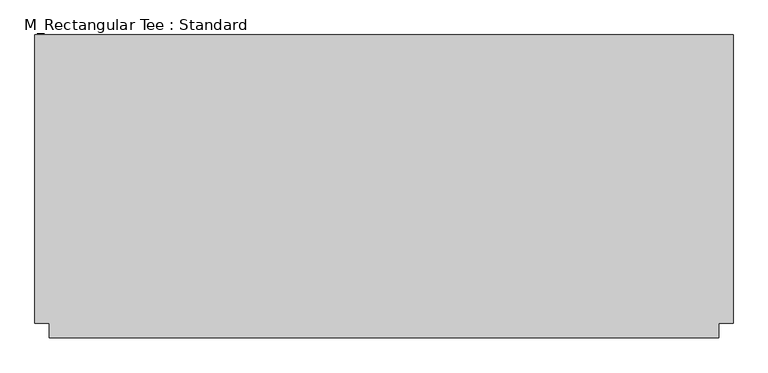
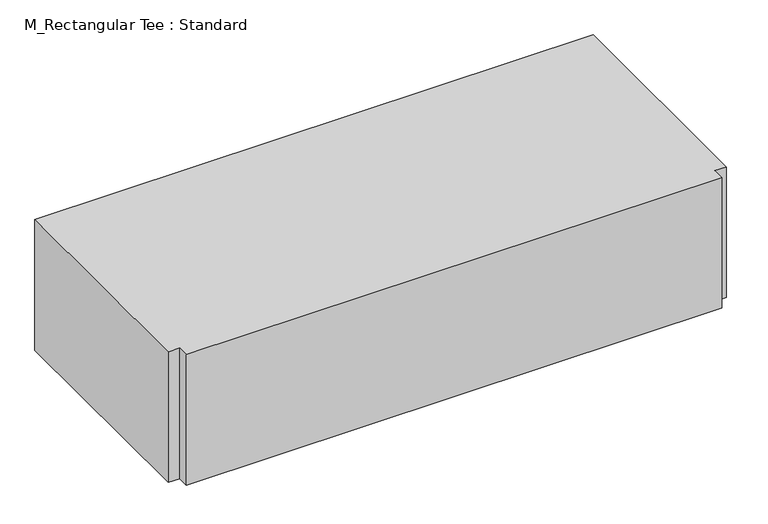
"""IFC4 building model written with IfcOpenShell, lengths in millimetres: duct fitting geometry, M_Rectangular Tee : Standard."""

import ifcopenshell
import ifcopenshell.guid

model = None  # the IFC model being written
_history = None  # IfcOwnerHistory: only IFC2X3 demands one
_inside = {}  # id of a spatial element -> (the spatial element, [elements in it])
_under = {}  # id of a project, library or spatial element -> (it, [spatial elements below it])
_declared = {}  # id of a project -> (the project, [libraries it declares])
_typed = {}  # id of a type object -> (the type object, [elements of that type])
_made_of = {}  # id of a material, layer set ... -> (it, [elements and type objects made of it])


def new_model(schema):
    """Start an empty IFC model of exactly this schema.

    Asked for "IFC4X3", IfcOpenShell would pick the latest addendum, in which some entities
    have other attributes; the version numbers below select the first issue.
    IFC2X3 requires an IfcOwnerHistory on every rooted entity: one is made here for all.
    """
    global model, _history
    if schema == "IFC4X3":
        model = ifcopenshell.file(schema_version=(4, 3, 0, 0))
    else:
        model = ifcopenshell.file(schema=schema)
    _inside.clear()
    _under.clear()
    _declared.clear()
    _typed.clear()
    _made_of.clear()
    _history = None
    if model.schema == "IFC2X3":
        org = make("IfcOrganization", Name="unknown")
        user = make(
            "IfcPersonAndOrganization",
            ThePerson=make("IfcPerson", FamilyName="unknown"),
            TheOrganization=org,
        )
        app = make(
            "IfcApplication",
            ApplicationDeveloper=org,
            Version="unknown",
            ApplicationFullName="unknown",
            ApplicationIdentifier="unknown",
        )
        _history = make(
            "IfcOwnerHistory",
            OwningUser=user,
            OwningApplication=app,
            ChangeAction="ADDED",
            CreationDate=0,
        )
    return model


def make(cls, **values):
    """One entity of the class cls with the attributes given. An attribute that is None is left unset."""
    return model.create_entity(
        cls, **{name: value for name, value in values.items() if value is not None}
    )


def rooted(cls, **values):
    """An entity with a GlobalId (a new one), such as an element, a storey or a relation."""
    return make(cls, GlobalId=ifcopenshell.guid.new(), OwnerHistory=_history, **values)


def si_unit(unit_type, name, prefix=None):
    """IfcSIUnit, for example si_unit("LENGTHUNIT", "METRE", prefix="MILLI")."""
    return make("IfcSIUnit", UnitType=unit_type, Prefix=prefix, Name=name)


def assignment(units):
    """IfcUnitAssignment: the units of a project."""
    return None if units is None else make("IfcUnitAssignment", Units=units)


def point(xyz):
    """IfcCartesianPoint."""
    return None if xyz is None else make("IfcCartesianPoint", Coordinates=xyz)


def direction(xyz):
    """IfcDirection."""
    return None if xyz is None else make("IfcDirection", DirectionRatios=xyz)


def frame(location, z_axis=None, x_axis=None):
    """IfcAxis2Placement3D, a coordinate frame: its origin and axes. An axis left out is left unset."""
    return make(
        "IfcAxis2Placement3D",
        Location=point(location),
        Axis=direction(z_axis),
        RefDirection=direction(x_axis),
    )


def origin():
    """The frame at (0, 0, 0) with its axes left unset."""
    return frame((0.0, 0.0, 0.0))


def place(relative_to, where):
    """IfcLocalPlacement: puts the frame where relative to a parent placement (None: the world)."""
    return make(
        "IfcLocalPlacement", PlacementRelTo=relative_to, RelativePlacement=where
    )


def context(
    kind, dimensions, precision=None, world=None, true_north=None, identifier=None
):
    """IfcGeometricRepresentationContext, for example the 3D "Model" context."""
    return make(
        "IfcGeometricRepresentationContext",
        ContextIdentifier=identifier,
        ContextType=kind,
        CoordinateSpaceDimension=dimensions,
        Precision=precision,
        WorldCoordinateSystem=world,
        TrueNorth=true_north,
    )


def project(units=None, contexts=None):
    """IfcProject with its units and contexts."""
    return rooted(
        "IfcProject",
        Name="project",
        RepresentationContexts=contexts,
        UnitsInContext=assignment(units),
    )


def spatial(cls, under=None, at=None, **own):
    """A site, building, storey or space (cls), placed at a placement, below another one or the project."""
    s = rooted(cls, ObjectPlacement=at, **own)
    if under is not None:
        _under.setdefault(under.id(), (under, []))[1].append(s)
    return s


def polyline(points):
    """IfcPolyline through the points."""
    return make("IfcPolyline", Points=[point(p) for p in points])


def outline(outer, holes=None, kind="AREA"):
    """IfcArbitraryClosedProfileDef: a profile drawn as a closed curve; with holes, ...WithVoids."""
    if holes is None:
        return make("IfcArbitraryClosedProfileDef", ProfileType=kind, OuterCurve=outer)
    return make(
        "IfcArbitraryProfileDefWithVoids",
        ProfileType=kind,
        OuterCurve=outer,
        InnerCurves=holes,
    )


def extrude(swept, where, along, depth):
    """IfcExtrudedAreaSolid: the profile swept, set in the frame where, extruded along a direction by depth."""
    return make(
        "IfcExtrudedAreaSolid",
        SweptArea=swept,
        Position=where,
        ExtrudedDirection=direction(along),
        Depth=depth,
    )


def shape(context_of_items, identifier, shape_type, items):
    """IfcShapeRepresentation: the items that make up one representation, for example the "Body"."""
    return make(
        "IfcShapeRepresentation",
        ContextOfItems=context_of_items,
        RepresentationIdentifier=identifier,
        RepresentationType=shape_type,
        Items=items,
    )


def source(mapping_origin, context_of_items, identifier, shape_type, items):
    """IfcRepresentationMap: a shape defined once, which mapped items show again and again."""
    return make(
        "IfcRepresentationMap",
        MappingOrigin=mapping_origin,
        MappedRepresentation=shape(context_of_items, identifier, shape_type, items),
    )


def transform(
    local_origin,
    x_axis=None,
    y_axis=None,
    z_axis=None,
    scale=None,
    scale2=None,
    scale3=None,
    uniform=True,
):
    """IfcCartesianTransformationOperator3D, or its non-uniform kind. x_axis, y_axis, z_axis: its Axis1, 2, 3."""
    if uniform:
        return make(
            "IfcCartesianTransformationOperator3D",
            Axis1=direction(x_axis),
            Axis2=direction(y_axis),
            LocalOrigin=point(local_origin),
            Scale=scale,
            Axis3=direction(z_axis),
        )
    return make(
        "IfcCartesianTransformationOperator3DnonUniform",
        Axis1=direction(x_axis),
        Axis2=direction(y_axis),
        LocalOrigin=point(local_origin),
        Scale=scale,
        Axis3=direction(z_axis),
        Scale2=scale2,
        Scale3=scale3,
    )


def mapped(mapping_source, mapping_target):
    """IfcMappedItem: shows the shape of a source again, moved by a transform."""
    return make(
        "IfcMappedItem", MappingSource=mapping_source, MappingTarget=mapping_target
    )


def made_of(thing, what):
    """Note that an element or type object is made of a material, layer set ...; save() writes the relation."""
    if what is not None:
        _made_of.setdefault(what.id(), (what, []))[1].append(thing)
    return thing


def element(
    cls,
    number,
    at=None,
    inside=None,
    cuts=None,
    type_object=None,
    material=None,
    context=None,
    identifier="Body",
    shape_type=None,
    held_by="IfcProductDefinitionShape",
    body=None,
    shapes=None,
    **own,
):
    """One element of the class cls, such as IfcWall. Its Tag is "e" and its number.

    at: its placement. inside: the storey or other place that contains it. cuts: it is an
    opening in that element (IfcRelVoidsElement). A single representation is given by context,
    identifier, shape_type and body (its items); several are given by shapes. held_by: the class
    of the entity that holds the representations. save() writes the other relations.
    """
    e = rooted(cls, Tag="e%d" % number, ObjectPlacement=at, **own)
    if body is not None:
        shapes = [shape(context, identifier, shape_type, body)]
    if shapes is not None:
        e.Representation = make(held_by, Representations=shapes)
    if inside is not None:
        _inside.setdefault(inside.id(), (inside, []))[1].append(e)
    if cuts is not None:
        rooted(
            "IfcRelVoidsElement", RelatingBuildingElement=cuts, RelatedOpeningElement=e
        )
    if type_object is not None:
        _typed.setdefault(type_object.id(), (type_object, []))[1].append(e)
    return made_of(e, material)


def aggregate(whole, parts):
    """IfcRelAggregates: a whole, such as a stair, and the parts it consists of."""
    return rooted("IfcRelAggregates", RelatingObject=whole, RelatedObjects=parts)


def save(model, path):
    """Write the relations noted so far, then the file.

    IfcRelAggregates (storeys below a building ...), IfcRelContainedInSpatialStructure (elements
    in a storey), IfcRelDefinesByType, IfcRelAssociatesMaterial and IfcRelDeclares: one each for
    every whole, place, type object, material and project.
    """
    for whole, parts in _under.values():
        aggregate(whole, parts)
    for where, things in _inside.values():
        rooted(
            "IfcRelContainedInSpatialStructure",
            RelatedElements=things,
            RelatingStructure=where,
        )
    for kind, things in _typed.values():
        rooted("IfcRelDefinesByType", RelatedObjects=things, RelatingType=kind)
    for what, things in _made_of.values():
        rooted("IfcRelAssociatesMaterial", RelatedObjects=things, RelatingMaterial=what)
    for by, libraries in _declared.values():
        rooted("IfcRelDeclares", RelatingContext=by, RelatedDefinitions=libraries)
    model.write(path)


def m_rectangular_tee_standard_c717c13b(model_context):
    return source(origin(), model_context, "Body", "SweptSolid", [
        extrude(outline(polyline([(-605.5, -250.0), (-605.5, 250.0), (605.5, 250.0), (605.5, -250.0), (580.5, -250.0), (580.5, -275.0), (-580.5, -275.0), (-580.5, -250.0), (-605.5, -250.0)])), frame((0.0, 0.0, -150.0), z_axis=(0.0, 0.0, 1.0), x_axis=(1.0, 0.0, 0.0)), (0.0, 0.0, 1.0), 300.0),
    ])


if __name__ == "__main__":
    model = new_model("IFC4")
    model_context = context("Model", 3, world=origin())
    ifc_project = project(units=[si_unit("LENGTHUNIT", "METRE", prefix="MILLI")], contexts=[model_context])
    site = spatial("IfcSite", under=ifc_project)
    building = spatial("IfcBuilding", under=site)
    placement = place(None, origin())
    m_rectangular_tee_standard_shape = m_rectangular_tee_standard_c717c13b(model_context)
    element("IfcDuctFitting", 1, ObjectType="M_Rectangular Tee : Standard", at=placement, inside=building, context=model_context, shape_type="MappedRepresentation", body=[
        mapped(m_rectangular_tee_standard_shape, transform((0.0, 0.0, 0.0), x_axis=(1.0, 0.0, 0.0), y_axis=(0.0, 1.0, 0.0), z_axis=(0.0, 0.0, 1.0))),
    ])
    save(model, "model.ifc")
